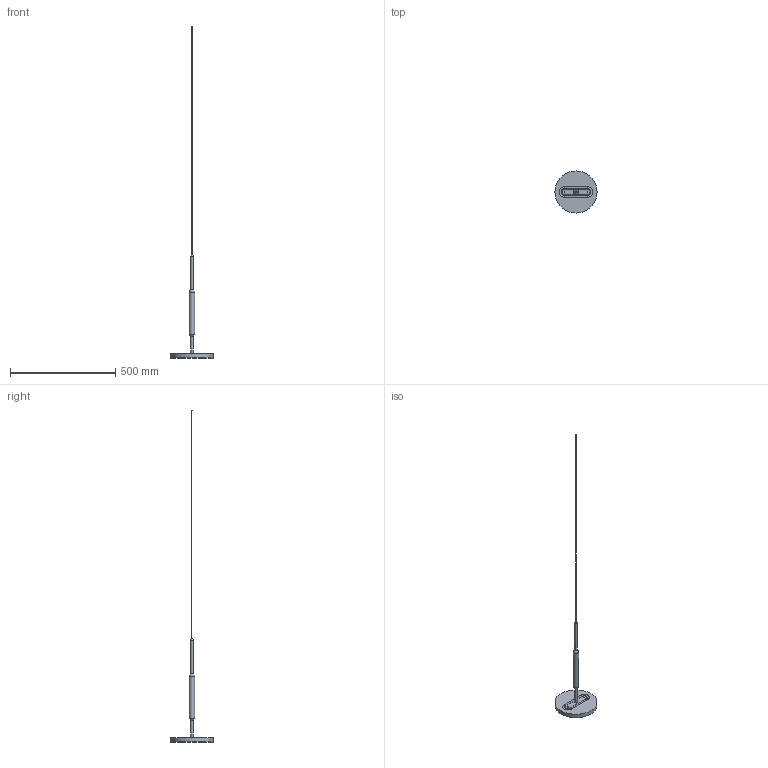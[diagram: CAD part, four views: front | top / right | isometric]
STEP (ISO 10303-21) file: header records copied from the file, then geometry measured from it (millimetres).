
FILE_DESCRIPTION(('HOOPS Exchange Step'),'2;1');
FILE_NAME('/Users/denyssokolov/Library/CloudStorage/GoogleDrive-svoyawork@gmail.com/Мій диск/Objects/PRESENTATION/46_FOG_lighting/NEW/models/fog_200/FOG_200.stp','2025-05-06T09:44:20+03:00',('denyssokolov'),('Unknown organisation'),'HOOPS Exchange 2024.2','HOOPS Exchange','Unknown authorisation');
FILE_SCHEMA( ('AP203_CONFIGURATION_CONTROLLED_3D_DESIGN_OF_MECHANICAL_PARTS_AND_ASSEMBLIES_MIM_LF') );
Length unit declared in the file: millimetre
Products named in the file (1): root
Bounding box: 200 x 200 x 1575.17 mm (x, y, z)
Volume: 623805.5 mm3; surface area: 165637.6 mm2
Topology: 15 solids, 15 shells, 359 faces, 852 edges, 525 vertices
Faces by surface type: cone 140, plane 138, cylinder 45, bspline 29, sphere 6, offset 1
Full cylindrical faces by diameter (mm): 1.998 x12, 2 x2, 3 x16, 8 x2, 10 x5, 23 x1, 25 x1, 200 x1
Entity records: 13299 total; most frequent: CARTESIAN_POINT 4866, DIRECTION 1832, ORIENTED_EDGE 1700, EDGE_CURVE 850, AXIS2_PLACEMENT_3D 716, VERTEX_POINT 525, VECTOR 400, LINE 399
